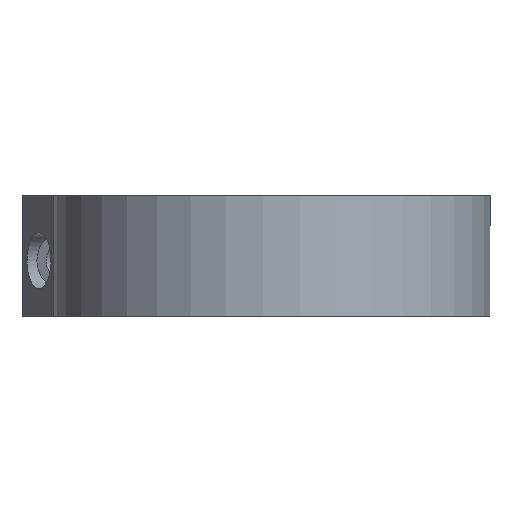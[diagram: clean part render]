
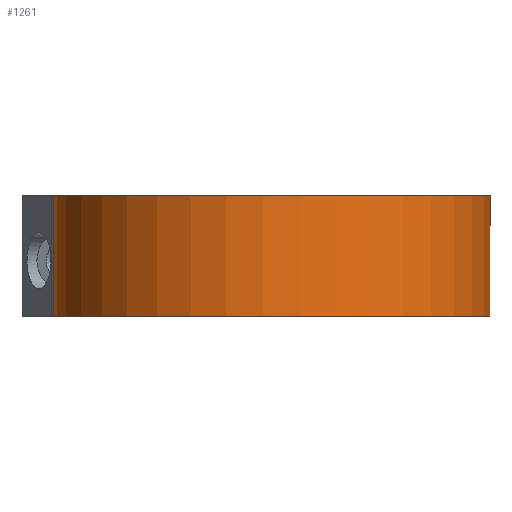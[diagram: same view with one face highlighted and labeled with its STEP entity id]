
A CAD part, front view. The second image highlights one B-rep face of the part: STEP entity #1261.
In plain terms, the highlighted cylindrical face has radius 23.5 mm (diameter 47 mm), a partial arc.
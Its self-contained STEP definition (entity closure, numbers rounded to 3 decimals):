
#70=FACE_OUTER_BOUND('',#146,.T.);
#146=EDGE_LOOP('',(#952,#953,#954,#955));
#238=CIRCLE('',#1376,23.5);
#249=CIRCLE('',#1396,23.5);
#326=LINE('',#2086,#428);
#336=LINE('',#2109,#438);
#428=VECTOR('',#1654,10.);
#438=VECTOR('',#1678,10.);
#552=VERTEX_POINT('',#2042);
#553=VERTEX_POINT('',#2044);
#569=VERTEX_POINT('',#2082);
#576=VERTEX_POINT('',#2108);
#689=EDGE_CURVE('',#552,#553,#238,.T.);
#710=EDGE_CURVE('',#553,#569,#326,.T.);
#721=EDGE_CURVE('',#576,#552,#336,.T.);
#722=EDGE_CURVE('',#569,#576,#249,.T.);
#952=ORIENTED_EDGE('',*,*,#710,.F.);
#953=ORIENTED_EDGE('',*,*,#689,.F.);
#954=ORIENTED_EDGE('',*,*,#721,.F.);
#955=ORIENTED_EDGE('',*,*,#722,.F.);
#1203=CYLINDRICAL_SURFACE('',#1395,23.5);
#1261=ADVANCED_FACE('',(#70),#1203,.T.);
#1376=AXIS2_PLACEMENT_3D('',#2045,#1617,#1618);
#1395=AXIS2_PLACEMENT_3D('',#2107,#1676,#1677);
#1396=AXIS2_PLACEMENT_3D('',#2110,#1679,#1680);
#1617=DIRECTION('center_axis',(0.,0.,-1.));
#1618=DIRECTION('ref_axis',(1.,0.,0.));
#1654=DIRECTION('',(0.,0.,1.));
#1676=DIRECTION('center_axis',(0.,0.,1.));
#1677=DIRECTION('ref_axis',(0.529,-0.849,0.));
#1678=DIRECTION('',(0.,0.,-1.));
#1679=DIRECTION('center_axis',(0.,0.,1.));
#1680=DIRECTION('ref_axis',(1.,0.,0.));
#2042=CARTESIAN_POINT('',(10.166,21.187,-6.5));
#2044=CARTESIAN_POINT('',(-23.499,0.203,-6.5));
#2045=CARTESIAN_POINT('Origin',(0.,0.,-6.5));
#2082=CARTESIAN_POINT('',(-23.499,0.203,6.5));
#2086=CARTESIAN_POINT('',(-23.499,0.203,0.));
#2107=CARTESIAN_POINT('Origin',(0.,0.,0.));
#2108=CARTESIAN_POINT('',(10.166,21.187,6.5));
#2109=CARTESIAN_POINT('',(10.166,21.187,0.));
#2110=CARTESIAN_POINT('Origin',(0.,0.,6.5));
